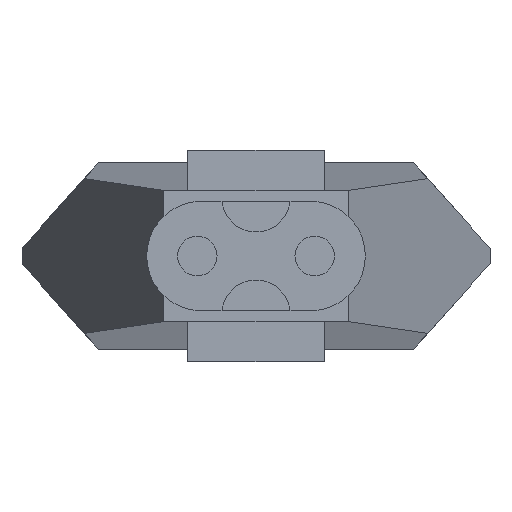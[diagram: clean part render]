
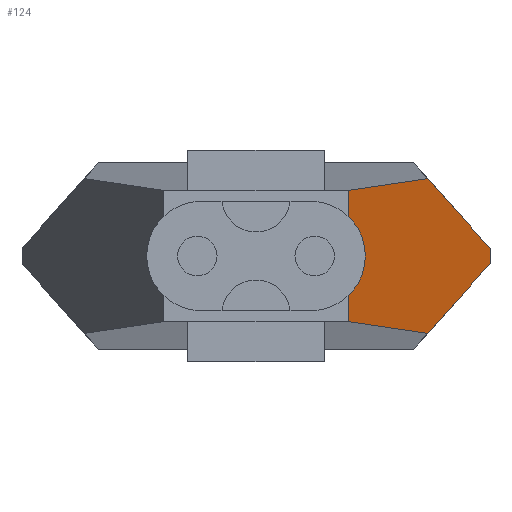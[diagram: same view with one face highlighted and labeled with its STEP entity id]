
A CAD part, front view. The second image highlights one B-rep face of the part: STEP entity #124.
In plain terms, the highlighted planar face has unit normal (0.906, -0.423, 0).
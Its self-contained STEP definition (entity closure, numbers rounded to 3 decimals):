
#124 = ADVANCED_FACE( '', ( #270 ), #271, .T. );
#270 = FACE_OUTER_BOUND( '', #433, .T. );
#271 = PLANE( '', #434 );
#433 = EDGE_LOOP( '', ( #730, #731, #732, #733, #734, #735, #736, #737 ) );
#434 = AXIS2_PLACEMENT_3D( '', #738, #739, #740 );
#730 = ORIENTED_EDGE( '', *, *, #1031, .F. );
#731 = ORIENTED_EDGE( '', *, *, #995, .F. );
#732 = ORIENTED_EDGE( '', *, *, #1022, .F. );
#733 = ORIENTED_EDGE( '', *, *, #1032, .F. );
#734 = ORIENTED_EDGE( '', *, *, #1033, .T. );
#735 = ORIENTED_EDGE( '', *, *, #934, .F. );
#736 = ORIENTED_EDGE( '', *, *, #1019, .F. );
#737 = ORIENTED_EDGE( '', *, *, #1034, .F. );
#738 = CARTESIAN_POINT( '', ( 21.422, 267.541, 50.2 ) );
#739 = DIRECTION( '', ( 0.906, -0.423, 0. ) );
#740 = DIRECTION( '', ( 0.423, 0.906, 0. ) );
#934 = EDGE_CURVE( '', #1105, #1107, #1108, .T. );
#995 = EDGE_CURVE( '', #1208, #1209, #1210, .T. );
#1019 = EDGE_CURVE( '', #1240, #1105, #1242, .T. );
#1022 = EDGE_CURVE( '', #1244, #1208, #1246, .T. );
#1031 = EDGE_CURVE( '', #1209, #1258, #1259, .T. );
#1032 = EDGE_CURVE( '', #1260, #1244, #1261, .T. );
#1033 = EDGE_CURVE( '', #1260, #1107, #1262, .T. );
#1034 = EDGE_CURVE( '', #1258, #1240, #1263, .T. );
#1105 = VERTEX_POINT( '', #1353 );
#1107 = VERTEX_POINT( '', #1356 );
#1108 = LINE( '', #1357, #1358 );
#1208 = VERTEX_POINT( '', #1491 );
#1209 = VERTEX_POINT( '', #1492 );
#1210 = LINE( '', #1493, #1494 );
#1240 = VERTEX_POINT( '', #1537 );
#1242 = LINE( '', #1540, #1541 );
#1244 = VERTEX_POINT( '', #1543 );
#1246 = LINE( '', #1546, #1547 );
#1258 = VERTEX_POINT( '', #1562 );
#1259 = LINE( '', #1563, #1564 );
#1260 = VERTEX_POINT( '', #1565 );
#1261 = LINE( '', #1566, #1567 );
#1262 = LINE( '', #1568, #1569 );
#1263 = LINE( '', #1570, #1571 );
#1353 = CARTESIAN_POINT( '', ( 11.067, 245.375, -4.8 ) );
#1356 = CARTESIAN_POINT( '', ( 11.047, 245.332, -4.8 ) );
#1357 = CARTESIAN_POINT( '', ( 18.847, 262.03, -4.8 ) );
#1358 = VECTOR( '', #1647, 1000. );
#1491 = CARTESIAN_POINT( '', ( 16.863, 257.783, 5.661 ) );
#1492 = CARTESIAN_POINT( '', ( 21.422, 267.541, 0.573 ) );
#1493 = CARTESIAN_POINT( '', ( 6.039, 234.612, 17.741 ) );
#1494 = VECTOR( '', #1723, 1000. );
#1537 = CARTESIAN_POINT( '', ( 16.863, 257.783, -5.661 ) );
#1540 = CARTESIAN_POINT( '', ( 30.023, 285.954, -7.614 ) );
#1541 = VECTOR( '', #1744, 1000. );
#1543 = CARTESIAN_POINT( '', ( 11.067, 245.375, 4.8 ) );
#1546 = CARTESIAN_POINT( '', ( 18.817, 261.965, 5.951 ) );
#1547 = VECTOR( '', #1746, 1000. );
#1562 = CARTESIAN_POINT( '', ( 21.422, 267.541, -0.573 ) );
#1563 = CARTESIAN_POINT( '', ( 21.422, 267.541, 50.2 ) );
#1564 = VECTOR( '', #1756, 1000. );
#1565 = CARTESIAN_POINT( '', ( 11.047, 245.332, 4.8 ) );
#1566 = CARTESIAN_POINT( '', ( 10.794, 244.792, 4.8 ) );
#1567 = VECTOR( '', #1757, 1000. );
#1568 = CARTESIAN_POINT( '', ( 11.047, 245.332, 50.2 ) );
#1569 = VECTOR( '', #1758, 1000. );
#1570 = CARTESIAN_POINT( '', ( 8.057, 238.933, -15.488 ) );
#1571 = VECTOR( '', #1759, 1000. );
#1647 = DIRECTION( '', ( -0.423, -0.906, 0. ) );
#1723 = DIRECTION( '', ( 0.383, 0.819, -0.427 ) );
#1744 = DIRECTION( '', ( -0.422, -0.904, 0.063 ) );
#1746 = DIRECTION( '', ( 0.422, 0.904, 0.063 ) );
#1756 = DIRECTION( '', ( 0., 0., -1. ) );
#1757 = DIRECTION( '', ( 0.423, 0.906, 0. ) );
#1758 = DIRECTION( '', ( 0., 0., -1. ) );
#1759 = DIRECTION( '', ( -0.383, -0.819, -0.427 ) );
